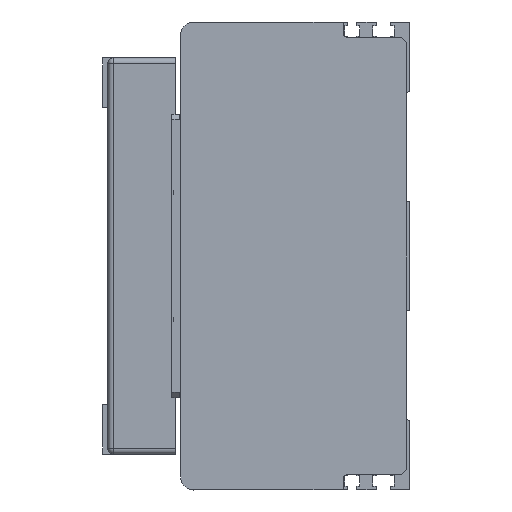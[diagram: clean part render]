
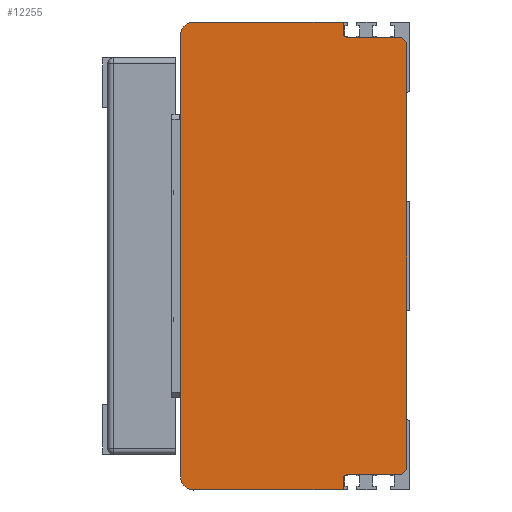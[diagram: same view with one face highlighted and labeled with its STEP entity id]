
A CAD part, left-side view. The second image highlights one B-rep face of the part: STEP entity #12255.
In plain terms, the highlighted planar face has unit normal (-1, 0, 0) as drawn and (0, 0, -1) by its records, which use the part's own axes.
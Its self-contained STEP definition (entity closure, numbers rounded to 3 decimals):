
#897=CIRCLE('',#13074,2.);
#898=CIRCLE('',#13075,5.);
#899=CIRCLE('',#13076,5.);
#900=CIRCLE('',#13077,2.);
#1188=FACE_OUTER_BOUND('',#1926,.T.);
#1926=EDGE_LOOP('',(#8290,#8291,#8292,#8293,#8294,#8295,#8296,#8297,#8298,
#8299,#8300,#8301,#8302,#8303));
#2805=LINE('',#17161,#3977);
#2806=LINE('',#17163,#3978);
#2807=LINE('',#17167,#3979);
#2808=LINE('',#17169,#3980);
#2809=LINE('',#17173,#3981);
#2810=LINE('',#17177,#3982);
#2811=LINE('',#17179,#3983);
#2812=LINE('',#17183,#3984);
#2813=LINE('',#17185,#3985);
#2814=LINE('',#17186,#3986);
#3977=VECTOR('',#14123,2.828);
#3978=VECTOR('',#14124,20.5);
#3979=VECTOR('',#14127,4.);
#3980=VECTOR('',#14128,57.5);
#3981=VECTOR('',#14131,170.);
#3982=VECTOR('',#14134,57.5);
#3983=VECTOR('',#14135,4.);
#3984=VECTOR('',#14138,20.5);
#3985=VECTOR('',#14139,2.828);
#3986=VECTOR('',#14140,164.);
#5165=VERTEX_POINT('',#17159);
#5166=VERTEX_POINT('',#17160);
#5167=VERTEX_POINT('',#17162);
#5168=VERTEX_POINT('',#17164);
#5169=VERTEX_POINT('',#17166);
#5170=VERTEX_POINT('',#17168);
#5171=VERTEX_POINT('',#17170);
#5172=VERTEX_POINT('',#17172);
#5173=VERTEX_POINT('',#17174);
#5174=VERTEX_POINT('',#17176);
#5175=VERTEX_POINT('',#17178);
#5176=VERTEX_POINT('',#17180);
#5177=VERTEX_POINT('',#17182);
#5178=VERTEX_POINT('',#17184);
#6418=EDGE_CURVE('',#5165,#5166,#2805,.T.);
#6419=EDGE_CURVE('',#5165,#5167,#2806,.T.);
#6420=EDGE_CURVE('',#5168,#5167,#897,.T.);
#6421=EDGE_CURVE('',#5168,#5169,#2807,.T.);
#6422=EDGE_CURVE('',#5169,#5170,#2808,.T.);
#6423=EDGE_CURVE('',#5170,#5171,#898,.T.);
#6424=EDGE_CURVE('',#5171,#5172,#2809,.T.);
#6425=EDGE_CURVE('',#5172,#5173,#899,.T.);
#6426=EDGE_CURVE('',#5173,#5174,#2810,.T.);
#6427=EDGE_CURVE('',#5174,#5175,#2811,.T.);
#6428=EDGE_CURVE('',#5176,#5175,#900,.T.);
#6429=EDGE_CURVE('',#5176,#5177,#2812,.T.);
#6430=EDGE_CURVE('',#5178,#5177,#2813,.T.);
#6431=EDGE_CURVE('',#5178,#5166,#2814,.T.);
#8290=ORIENTED_EDGE('',*,*,#6418,.F.);
#8291=ORIENTED_EDGE('',*,*,#6419,.T.);
#8292=ORIENTED_EDGE('',*,*,#6420,.F.);
#8293=ORIENTED_EDGE('',*,*,#6421,.T.);
#8294=ORIENTED_EDGE('',*,*,#6422,.T.);
#8295=ORIENTED_EDGE('',*,*,#6423,.T.);
#8296=ORIENTED_EDGE('',*,*,#6424,.T.);
#8297=ORIENTED_EDGE('',*,*,#6425,.T.);
#8298=ORIENTED_EDGE('',*,*,#6426,.T.);
#8299=ORIENTED_EDGE('',*,*,#6427,.T.);
#8300=ORIENTED_EDGE('',*,*,#6428,.F.);
#8301=ORIENTED_EDGE('',*,*,#6429,.T.);
#8302=ORIENTED_EDGE('',*,*,#6430,.F.);
#8303=ORIENTED_EDGE('',*,*,#6431,.T.);
#11826=PLANE('',#13073);
#12255=ADVANCED_FACE('',(#1188),#11826,.T.);
#13073=AXIS2_PLACEMENT_3D('',#17158,#14121,#14122);
#13074=AXIS2_PLACEMENT_3D('',#17165,#14125,#14126);
#13075=AXIS2_PLACEMENT_3D('',#17171,#14129,#14130);
#13076=AXIS2_PLACEMENT_3D('',#17175,#14132,#14133);
#13077=AXIS2_PLACEMENT_3D('',#17181,#14136,#14137);
#14121=DIRECTION('center_axis',(0.,0.,
-1.));
#14122=DIRECTION('ref_axis',(0.,-1.,0.));
#14123=DIRECTION('',(0.707,-0.707,0.));
#14124=DIRECTION('',(0.,1.,0.));
#14125=DIRECTION('center_axis',(0.,0.,
-1.));
#14126=DIRECTION('ref_axis',(0.707,0.707,0.));
#14127=DIRECTION('',(-1.,0.,0.));
#14128=DIRECTION('',(0.,1.,0.));
#14129=DIRECTION('center_axis',(0.,0.,
-1.));
#14130=DIRECTION('ref_axis',(-1.,0.,0.));
#14131=DIRECTION('',(1.,0.,0.));
#14132=DIRECTION('center_axis',(0.,0.,
-1.));
#14133=DIRECTION('ref_axis',(0.,1.,0.));
#14134=DIRECTION('',(0.,-1.,0.));
#14135=DIRECTION('',(-1.,0.,0.));
#14136=DIRECTION('center_axis',(0.,0.,
-1.));
#14137=DIRECTION('ref_axis',(-0.707,0.707,0.));
#14138=DIRECTION('',(0.,-1.,0.));
#14139=DIRECTION('',(0.707,0.707,0.));
#14140=DIRECTION('',(-1.,0.,0.));
#17158=CARTESIAN_POINT('Origin',(317.669,46.746,-206.483));
#17159=CARTESIAN_POINT('',(-91.,-80.,-206.483));
#17160=CARTESIAN_POINT('',(-89.,-82.,-206.483));
#17161=CARTESIAN_POINT('',(-20.019,-150.981,-206.483));
#17162=CARTESIAN_POINT('',(-91.,-59.5,-206.483));
#17163=CARTESIAN_POINT('',(-91.,-17.627,-206.483));
#17164=CARTESIAN_POINT('',(-93.,-57.5,-206.483));
#17165=CARTESIAN_POINT('Origin',(-93.,-59.5,-206.483));
#17166=CARTESIAN_POINT('',(-97.,-57.5,-206.483));
#17167=CARTESIAN_POINT('',(-91.,-57.5,-206.483));
#17168=CARTESIAN_POINT('',(-97.,0.,-206.483));
#17169=CARTESIAN_POINT('',(-97.,-57.5,-206.483));
#17170=CARTESIAN_POINT('',(-92.,5.,-206.483));
#17171=CARTESIAN_POINT('Origin',(-92.,0.,
-206.483));
#17172=CARTESIAN_POINT('',(78.,5.,-206.483));
#17173=CARTESIAN_POINT('',(-92.,5.,-206.483));
#17174=CARTESIAN_POINT('',(83.,0.,-206.483));
#17175=CARTESIAN_POINT('Origin',(78.,0.,
-206.483));
#17176=CARTESIAN_POINT('',(83.,-57.5,-206.483));
#17177=CARTESIAN_POINT('',(83.,0.,-206.483));
#17178=CARTESIAN_POINT('',(79.,-57.5,-206.483));
#17179=CARTESIAN_POINT('',(83.,-57.5,-206.483));
#17180=CARTESIAN_POINT('',(77.,-59.5,-206.483));
#17181=CARTESIAN_POINT('Origin',(79.,-59.5,-206.483));
#17182=CARTESIAN_POINT('',(77.,-80.,-206.483));
#17183=CARTESIAN_POINT('',(77.,-57.5,-206.483));
#17184=CARTESIAN_POINT('',(75.,-82.,-206.483));
#17185=CARTESIAN_POINT('',(168.354,11.354,-206.483));
#17186=CARTESIAN_POINT('',(81.,-82.,-206.483));
